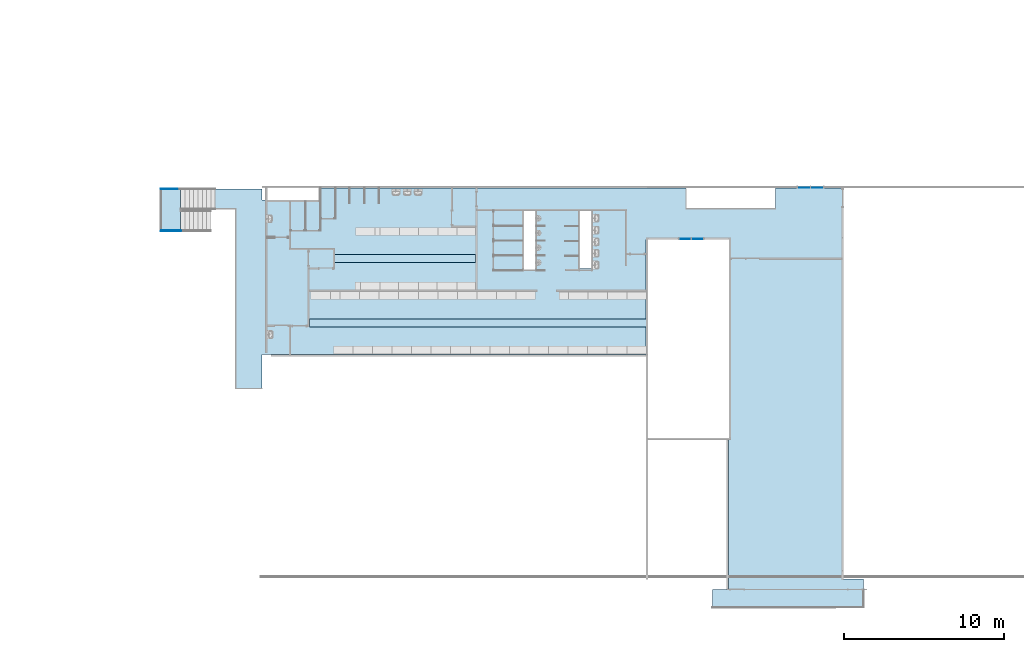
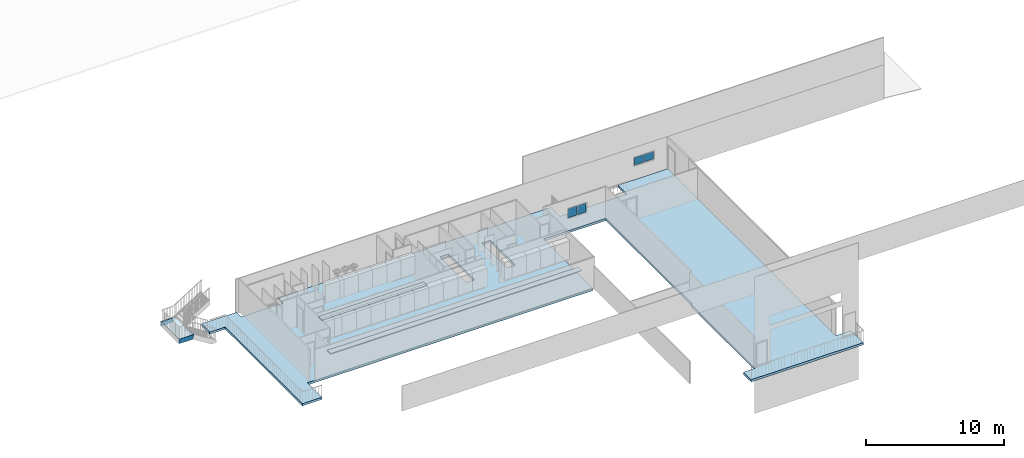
# One storey, part 3 of 14: 4 plates, 4 slabs, 2 members, 2 openings, 3 elements without a shape of their own.
"""IFC2X3 building model written with IfcOpenShell, lengths in millimetres."""

from ifc_helpers import new_model, entity, si_unit, converted_unit, derived_unit, direction, frame, frame_2d, origin, origin_2d_with_axis, place, context, subcontext, project, spatial, polyline, rectangle, outline, extrude, faceted_brep, source, transform, mapped, material, layer, layer_set, layer_usage, type_object, type_shapes, element, aggregate, save


model = new_model("IFC2X3")

# Units and contexts
model_context = context("Model", 3, precision=0.01, world=origin(), true_north=direction((4.05803320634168e-15, -1.0)))
body_context = subcontext(model_context, "Body", "Model", "MODEL_VIEW")
ifc_project = project(units=[si_unit("LENGTHUNIT", "METRE", prefix="MILLI"), si_unit("AREAUNIT", "SQUARE_METRE"), si_unit("VOLUMEUNIT", "CUBIC_METRE"), converted_unit("PLANEANGLEUNIT", "DEGREE", entity("IfcRatioMeasure", 0.0174532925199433), si_unit("PLANEANGLEUNIT", "RADIAN"), dimensions=[0, 0, 0, 0, 0, 0, 0]), si_unit("MASSUNIT", "GRAM", prefix="KILO"), derived_unit("MASSDENSITYUNIT", [(si_unit("MASSUNIT", "GRAM", prefix="KILO"), 1), (si_unit("LENGTHUNIT", "METRE"), -3)]), si_unit("TIMEUNIT", "SECOND"), si_unit("FREQUENCYUNIT", "HERTZ"), si_unit("THERMODYNAMICTEMPERATUREUNIT", "DEGREE_CELSIUS"), derived_unit("THERMALTRANSMITTANCEUNIT", [(si_unit("MASSUNIT", "GRAM", prefix="KILO"), 1), (si_unit("THERMODYNAMICTEMPERATUREUNIT", "KELVIN"), -1), (si_unit("TIMEUNIT", "SECOND"), -3)]), derived_unit("VOLUMETRICFLOWRATEUNIT", [(si_unit("LENGTHUNIT", "METRE"), 3), (si_unit("TIMEUNIT", "SECOND"), -1)]), si_unit("ELECTRICCURRENTUNIT", "AMPERE"), si_unit("ELECTRICVOLTAGEUNIT", "VOLT"), si_unit("POWERUNIT", "WATT"), si_unit("FORCEUNIT", "NEWTON", prefix="KILO"), si_unit("ILLUMINANCEUNIT", "LUX"), si_unit("LUMINOUSFLUXUNIT", "LUMEN"), si_unit("LUMINOUSINTENSITYUNIT", "CANDELA"), derived_unit("USERDEFINED", [(si_unit("MASSUNIT", "GRAM", prefix="KILO"), -1), (si_unit("LENGTHUNIT", "METRE"), -2), (si_unit("TIMEUNIT", "SECOND"), 3), (si_unit("LUMINOUSFLUXUNIT", "LUMEN"), 1)]), derived_unit("LINEARVELOCITYUNIT", [(si_unit("LENGTHUNIT", "METRE"), 1), (si_unit("TIMEUNIT", "SECOND"), -1)]), si_unit("PRESSUREUNIT", "PASCAL"), derived_unit("USERDEFINED", [(si_unit("LENGTHUNIT", "METRE"), -2), (si_unit("MASSUNIT", "GRAM", prefix="KILO"), 1), (si_unit("TIMEUNIT", "SECOND"), -2)])], contexts=[model_context])

# Site, building, storey
site_placement = place(None, frame((927466.849349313, 583801.882853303, 0.0), z_axis=(0.0, 0.0, 1.0), x_axis=(-1.0, 0.0, 0.0)))
site = spatial("IfcSite", under=ifc_project, at=site_placement, Name="Surface", CompositionType="ELEMENT")
building_placement = place(site_placement, origin())
building = spatial("IfcBuilding", under=site, at=building_placement, CompositionType="ELEMENT")
storey_placement = place(building_placement, frame((0.0, 0.0, 48170.0)))
storey = spatial("IfcBuildingStorey", under=building, at=storey_placement, Name="First floor", CompositionType="ELEMENT", Elevation=48170.0)

# Stair, members
stair_placement = place(storey_placement, origin())
stair = element("IfcStair", 1, at=stair_placement, inside=storey, Name="Assembled Stair:Stair", ObjectType="Assembled Stair:170mm max riser 270mm going 1500", ShapeType="NOTDEFINED")
member_type = type_object("IfcMemberType", Name="Stringer:Stringer - 50mm Width", PredefinedType="STRINGER")
member_1_placement = place(stair_placement, frame((-75622.9844869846, 12047.1010509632, 994.52075467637)))
member_1 = element("IfcMember", 2, at=member_1_placement, type_object=member_type, Name="Assembled Stair:Stair:634342 Stringer 5", ObjectType="Assembled Stair:170mm max riser 270mm going 1500", context=body_context, shape_type="Brep", body=[
    faceted_brep([(114.323308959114, 50.0, 400.0), (114.323308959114, 0.0, 400.0), (1064.3931831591, 0.0, 400.0), (1014.3931831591, 50.0, 400.0), (0.0, 50.0, 0.0), (1014.3931831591, 50.0, 0.0), (0.0, 0.0, 0.0), (1064.3931831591, 0.0, 0.0)], [[[0, 1, 2, 3]], [[4, 0, 3, 5]], [[6, 4, 5, 7]], [[1, 6, 7, 2]], [[1, 0, 4, 6]], [[2, 7, 5, 3]]]),
])
member_2_placement = place(stair_placement, frame((-75838.5214296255, 14647.4703266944, 994.52075467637)))
member_2 = element("IfcMember", 3, at=member_2_placement, type_object=member_type, Name="Assembled Stair:Stair:634342 Stringer 7", ObjectType="Assembled Stair:170mm max riser 270mm going 1500", context=body_context, shape_type="Brep", body=[
    faceted_brep([(1229.9301258, 0.0, 400.0), (1279.9301258, 50.0, 400.0), (0.0, 50.0, 400.0), (0.0, 0.0, 400.0), (1229.9301258, 0.0, 0.0), (114.323308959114, 0.0, 0.0), (1279.9301258, 50.0, 0.0), (114.323308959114, 50.0, 0.0)], [[[0, 1, 2, 3]], [[4, 0, 3, 5]], [[6, 4, 5, 7]], [[1, 6, 7, 2]], [[1, 0, 4, 6]], [[2, 7, 5, 3]]]),
])

# Curtain wall, plates
curtain_wall_type = type_object("IfcCurtainWallType", Name="Curtain Wall:Storefront", PredefinedType="NOTDEFINED")
curtain_wall_1_placement = place(storey_placement, frame((0.0, 0.0, -48170.0)))
curtain_wall_1 = element("IfcCurtainWall", 4, at=curtain_wall_1_placement, inside=storey, type_object=curtain_wall_type, Name="Curtain Wall:Storefront", ObjectType="Curtain Wall:Storefront")
ifc_material_1 = material(Name="Glass")
plate_type_1 = type_object("IfcPlateType", Name="Glazed", PredefinedType="CURTAIN_PANEL", material=ifc_material_1)
shared_shape_1 = source(origin(), body_context, "Body", "SweptSolid", [
    extrude(rectangle(XDim=25.0, YDim=735.000000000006, at=origin_2d_with_axis()), frame((0.0, 37.0, 0.0), z_axis=(0.0, 0.0, 1.0), x_axis=(0.0, 1.0, 0.0)), (0.0, 0.0, 1.0), 800.0),
])
type_shapes(plate_type_1, [shared_shape_1])
plate_1_placement = place(curtain_wall_1_placement, frame((-108050.43727682, 15157.4703266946, 49320.0)))
plate_1 = element("IfcPlate", 5, at=plate_1_placement, type_object=plate_type_1, material=ifc_material_1, Name="System Panel:Glazed", ObjectType="Glazed", context=body_context, shape_type="MappedRepresentation", body=[
    mapped(shared_shape_1, transform((0.0, 0.0, 0.0), scale=1.0)),
])
plate_2_placement = place(curtain_wall_1_placement, frame((-107265.43727682, 15157.4703266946, 49320.0)))
plate_2 = element("IfcPlate", 6, at=plate_2_placement, type_object=plate_type_1, material=ifc_material_1, Name="System Panel:Glazed", ObjectType="Glazed", context=body_context, shape_type="MappedRepresentation", body=[
    mapped(shared_shape_1, transform((0.0, 0.0, 0.0), scale=1.0)),
])
aggregate(curtain_wall_1, [plate_1, plate_2])

curtain_wall_2_placement = place(storey_placement, frame((0.0, 0.0, -48170.0)))
curtain_wall_2 = element("IfcCurtainWall", 7, at=curtain_wall_2_placement, inside=storey, type_object=curtain_wall_type, Name="Curtain Wall:Storefront", ObjectType="Curtain Wall:Storefront")
plate_type_2 = type_object("IfcPlateType", Name="Glazed", PredefinedType="CURTAIN_PANEL", material=ifc_material_1)
shared_shape_2 = source(origin(), body_context, "Body", "SweptSolid", [
    extrude(rectangle(XDim=25.0, YDim=774.999999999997, at=origin_2d_with_axis()), frame((0.0, 37.0, 0.0), z_axis=(0.0, 0.0, 1.0), x_axis=(0.0, 1.0, 0.0)), (0.0, 0.0, 1.0), 670.489127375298),
])
type_shapes(plate_type_2, [shared_shape_2])
plate_3_placement = place(curtain_wall_2_placement, frame((-115510.437276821, 11958.2777512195, 49449.5108726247)))
plate_3 = element("IfcPlate", 8, at=plate_3_placement, type_object=plate_type_2, material=ifc_material_1, Name="System Panel:Glazed", ObjectType="Glazed", context=body_context, shape_type="MappedRepresentation", body=[
    mapped(shared_shape_2, transform((0.0, 0.0, 0.0), scale=1.0)),
])
plate_4_placement = place(curtain_wall_2_placement, frame((-114685.437276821, 11958.2777512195, 49449.5108726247)))
plate_4 = element("IfcPlate", 9, at=plate_4_placement, type_object=plate_type_2, material=ifc_material_1, Name="System Panel:Glazed", ObjectType="Glazed", context=body_context, shape_type="MappedRepresentation", body=[
    mapped(shared_shape_2, transform((0.0, 0.0, 0.0), scale=1.0)),
])
aggregate(curtain_wall_2, [plate_3, plate_4])

# Slab, openings
ifc_material_2 = material(Name="cocn slab Mezz")
ifc_layer_1 = layer(ifc_material_2, 200.0)
ifc_layer_set_1 = layer_set([ifc_layer_1], Name="Floor:Mezz")
ifc_layer_usage_1 = layer_usage(ifc_layer_set_1, "AXIS3", "POSITIVE", 0.0)
slab_1_placement = place(storey_placement, frame((-118398.690247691, 12008.2777512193, -200.0)))
slab_1 = element("IfcSlab", 10, at=slab_1_placement, inside=storey, material=ifc_layer_usage_1, Name="Floor:Mezz", ObjectType="Floor:Mezz", PredefinedType="FLOOR", context=body_context, shape_type="SweptSolid", body=[
    extrude(outline(polyline([(6671.59697502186, -2685.80742452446), (-17279.199504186, -2685.80742452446), (-17279.199504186, -581.599999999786), (-18922.3499458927, -581.59999999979), (-18922.3499458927, -11796.1767002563), (-20222.3499458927, -11796.1767002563), (-20222.3499458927, -13007.0), (-17279.1995041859, -13007.0), (-17279.1995041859, -12324.0), (-13738.1911904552, -12324.0), (-13738.1911904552, -13085.0), (9152.65419950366, -13085.0), (9152.65419950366, -11785.0), (14751.596975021, -11785.0), (14751.596975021, -13085.0), (18924.2514780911, -13085.0), (18924.2514780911, 11312.69215078), (20222.3499458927, 11312.69215078), (20222.3499458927, 13085.0), (10801.53164299, 13085.0), (10801.53164299, 11971.807661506), (11791.53164299, 11971.8076615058), (11791.53164299, 2615.13742898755), (11891.53164299, 2615.13742898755), (11891.53164299, -9885.80742452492), (6671.59697502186, -9885.80742452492), (6671.59697502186, -2685.80742452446)])), frame((20222.3499458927, 13085.0, 200.0), z_axis=(0.0, 0.0, -1.0), x_axis=(-1.0, 0.0, 0.0)), (0.0, 0.0, 1.0), 199.999999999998),
])
opening_1_placement = place(slab_1_placement, frame((17333.6539741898, 3223.49015142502, 200.0)))
element("IfcOpeningElement", 11, at=opening_1_placement, cuts=slab_1, Name="Floor:Mezz:2", ObjectType="Opening", context=body_context, shape_type="SweptSolid", body=[
    extrude(rectangle(XDim=3624.99999999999, YDim=700.654627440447, at=origin_2d_with_axis()), frame((0.0, 0.0, 0.0), z_axis=(0.0, 0.0, -1.0), x_axis=(0.0, 1.0, 0.0)), (0.0, 0.0, 1.0), 199.999999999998),
])
opening_2_placement = place(slab_1_placement, frame((20832.6407324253, 3285.99015142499, 200.0)))
element("IfcOpeningElement", 12, at=opening_2_placement, cuts=slab_1, Name="Floor:Mezz:3", ObjectType="Opening", context=body_context, shape_type="SweptSolid", body=[
    extrude(rectangle(XDim=3749.99999999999, YDim=702.681110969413, at=origin_2d_with_axis()), frame((0.0, 0.0, 0.0), z_axis=(0.0, 0.0, 1.0), x_axis=(0.0, 1.0, 0.0)), (0.0, 0.0, -1.0), 199.999999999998),
])

# Slabs
ifc_material_3 = material(Name="Wood - Stained")
ifc_layer_2 = layer(ifc_material_3, 50.0)
ifc_layer_set_2 = layer_set([ifc_layer_2], Name="Floor:Counter")
ifc_layer_usage_2 = layer_usage(ifc_layer_set_2, "AXIS3", "POSITIVE", 0.0)
slab_2_placement = place(storey_placement, frame((-104897.937276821, 16169.2777512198, 450.0)))
element("IfcSlab", 13, at=slab_2_placement, inside=storey, material=ifc_layer_usage_2, Name="Floor:Counter", ObjectType="Floor:Counter", PredefinedType="FLOOR", context=body_context, shape_type="SweptSolid", body=[
    extrude(rectangle(XDim=500.000000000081, YDim=21054.7918275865, at=frame_2d((0.0, 2000.0), x_axis=(0.0, -1.0))), frame((10527.3959137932, 2250.0, 50.0), z_axis=(0.0, 0.0, -1.0), x_axis=(-1.0, 0.0, 0.0)), (0.0, 0.0, 1.0), 49.9999999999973),
])
slab_3_placement = place(storey_placement, frame((-104897.937276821, 16169.2777512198, 450.0)))
element("IfcSlab", 14, at=slab_3_placement, inside=storey, material=ifc_layer_usage_2, Name="Floor:Counter:2", ObjectType="Floor:Counter", PredefinedType="FLOOR", context=body_context, shape_type="SweptSolid", body=[
    extrude(rectangle(XDim=500.000000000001, YDim=8799.99999177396, at=frame_2d((-4555.84570554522, -2000.0), x_axis=(0.0, -1.0))), frame((10527.3959137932, 2250.0, 50.0), z_axis=(0.0, 0.0, -1.0), x_axis=(-1.0, 0.0, 0.0)), (0.0, 0.0, 1.0), 49.9999999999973),
])

# Slab
slab_4_placement = place(stair_placement, origin())
slab_4 = element("IfcSlab", 15, at=slab_4_placement, Name="Assembled Stair:Stair:634342 Landing 1", ObjectType="Assembled Stair:170mm max riser 270mm going 1500", PredefinedType="LANDING", context=body_context, shape_type="SweptSolid", body=[
    extrude(rectangle(XDim=2550.36927573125, YDim=1200.0, at=frame_2d((0.0, 199.999999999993), x_axis=(1.0, 0.0))), frame((-75408.5913038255, 13372.2856888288, 1294.52075467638), z_axis=(0.0, 0.0, 1.0), x_axis=(0.0, -1.0, 0.0)), (0.0, 0.0, 1.0), 49.9999999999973),
])

aggregate(stair, [slab_4, member_1, member_2])

save(model, "model.ifc")
